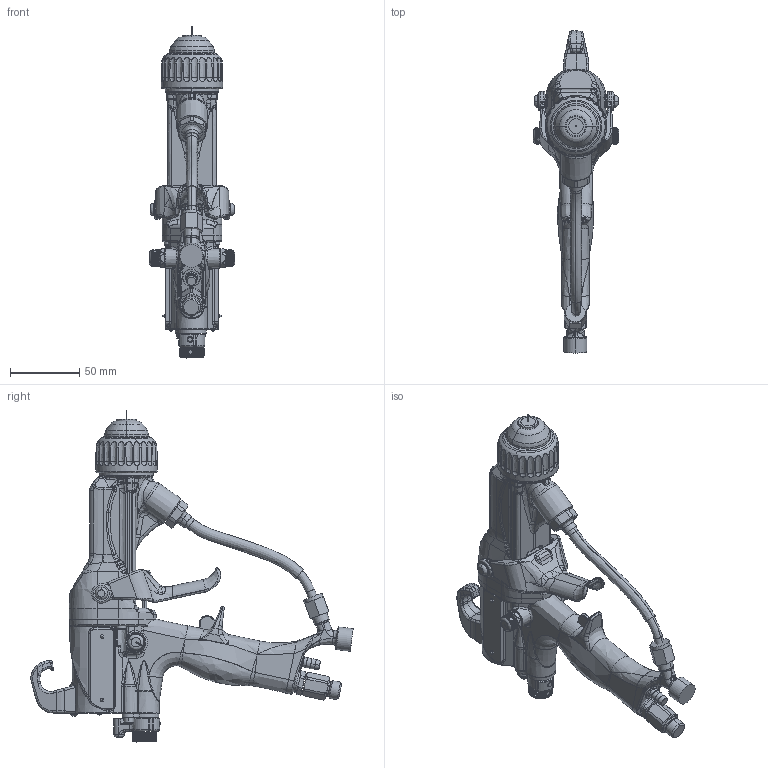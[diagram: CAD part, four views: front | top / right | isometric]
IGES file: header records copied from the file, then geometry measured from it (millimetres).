
Start section:  PTC IGES file: l60t11-en-p.igs
Global section: file name: l60t11-en-p.igs; native system: Creo Parametric by PTC Inc.; preprocessor: 2019030; author: qusrh3; organization: Unknown; date: 20200518.163525; units: inch
Bounding box: 61.79 x 233.22 x 240.32 mm (x, y, z)
Surface area: 91170.9 mm2 (no closed solid volume)
Topology: 0 solids, 0 shells, 2589 faces, 13008 edges, 13001 vertices
Faces by surface type: bspline 1373, revolution 1212, extrusion 4
